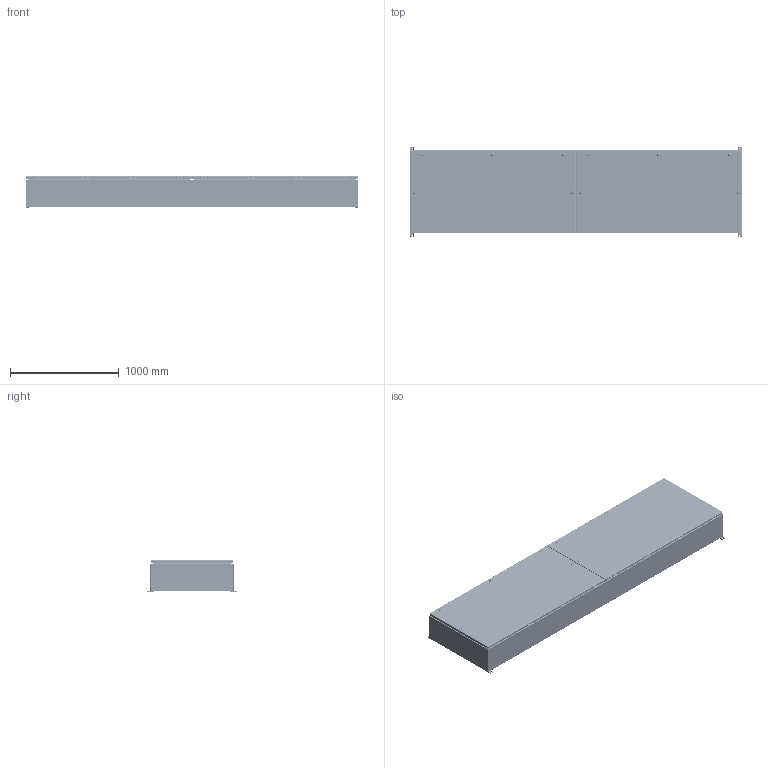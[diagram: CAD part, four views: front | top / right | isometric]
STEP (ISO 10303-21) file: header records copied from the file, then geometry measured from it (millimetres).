
FILE_DESCRIPTION(/* description */ ('1412BTCU 800A - 4 Wires x 120" Assembly'),/* implementation_level */ '2;1');
FILE_NAME(/* name */ 'C:\Vault_Workspace\Inventor_Dwg\BoxCad\Result\1412BTCU10804\e-mail\3D\1412BTCU10804.stp',/* time_stamp */ '2022-09-12T16:28:57-04:00',/* author */ ('BoxCad'),/* organization */ (''),/* preprocessor_version */ 'ST-DEVELOPER v18.1',/* originating_system */ 'Autodesk Inventor 2020',/* authorisation */ '');
FILE_SCHEMA (('AUTOMOTIVE_DESIGN { 1 0 10303 214 3 1 1 }'));
Products named in the file (69): 1412BTCU10804; 1412BTCU10804B; 1412BTCU10804B-P; 1412BTCU10804E-P; STK-Q-16005; iLogic_STK-G-00701; STK-Q-00260; STK-Q-07220-1; STK-Q-07220-A; STK-Q-07220-B; 1412BTCU10804C; 1412BTCU10804C-P; 1412BTCU10804F-P; 1412BTCU10804G; STK-Q-16080; STK-K-09800; STK-Q-33014; STK-Q-90398; STK-Q-40095; STK-Q-63410; STK-S-00100; STK-P-02400S; STK-A-880SCQ4-SL-1; STK-A-880SCQ4-SL-2; STK-A-880SCQ4-SL-3; STK-A-880SCQ4-SL-4; STK-A-880SCQ4-SL-5; STK-A-880SCQ4-SL-6; STK-Q-78140; STK-A-880SCQ4-SL-7; STK-A-880SCQ4-SL-8; STK-A-880SCQ4-SL-9; STK-A-880SCQ4-SL-10; STK-Q-78110; STK-Q-78120; STK-Q-78145; STK-Q-03200; STK-Q-78125; STK-Q-78141; STK-Q-90390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
Assembly tree (244 placements, depth 4):
  1412BTCU10804
    1412BTCU10804B
      1412BTCU10804B-P
      1412BTCU10804E-P
      STK-Q-16080  x2
      STK-Q-16005  x10
      iLogic_STK-G-00701
      STK-Q-00260  x10
      STK-Q-07220-1  x10
        STK-Q-07220-A
        STK-Q-07220-B
      STK-S-00100
      STK-P-02400S
    1412BTCU10804C
      1412BTCU10804C-P
      1412BTCU10804F-P
      1412BTCU10804G  x2
      STK-Q-16080  x2
      STK-K-09800  x8
        STK-Q-33014
        STK-Q-90398
        STK-Q-40095
        STK-Q-63410
      STK-S-00100
      STK-P-02400S
      STK-A-880SCQ4-SL-1
        STK-Q-78110
        STK-Q-78120
        STK-Q-78145
        STK-Q-03200
        STK-Q-78125
        STK-Q-78141
        STK-Q-90390
        STK-Q-78160
      STK-A-880SCQ4-SL-2
        STK-Q-78110
        STK-Q-78120
        STK-Q-78145
        STK-Q-03200
        STK-Q-78125
        STK-Q-78141
        STK-Q-90390
        STK-Q-78160
      STK-A-880SCQ4-SL-3
        STK-Q-78110
        STK-Q-78120
        STK-Q-78145
        STK-Q-03200
        STK-Q-78125
        STK-Q-78141
        STK-Q-90390
        STK-Q-78160
      STK-A-880SCQ4-SL-4
        STK-Q-78110
        STK-Q-78120
        STK-Q-78145
        STK-Q-03200
        STK-Q-78125
        STK-Q-78141
        STK-Q-90390
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Bounding box: 3048 x 819.15 x 294.19 mm (x, y, z)
Volume: 21169205.7 mm3; surface area: 19462290.3 mm2
Topology: 362 solids, 362 shells, 50311 faces, 130502 edges, 80852 vertices
Faces by surface type: plane 18731, bspline 13054, cylinder 12555, torus 4009, sphere 1186, cone 776
Full cylindrical faces by diameter (mm): 0.75 x14, 0.762 x14, 1 x32, 1.1 x32, 3.2 x16, 4.5 x64, 4.521 x32, 4.85 x64, 4.95 x16, 5 x10, 5.1 x148, 5.6 x8, 5.9 x278, 6.65 x26, 6.8 x10, 6.85 x96, 7.3 x8, 7.366 x8, 7.8 x656, 7.9 x10, 8 x64, 8.25 x32, 8.382 x8, 8.6 x12, 9.5 x10, 9.6 x10, 9.7 x48, 9.906 x4, 10 x10, 10.312 x2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
Entity records: 229180 total; most frequent: CARTESIAN_POINT 87031, ORIENTED_EDGE 30918, DIRECTION 26070, EDGE_CURVE 15459, VERTEX_POINT 9825, AXIS2_PLACEMENT_3D 9070, LINE 7930, VECTOR 7930
